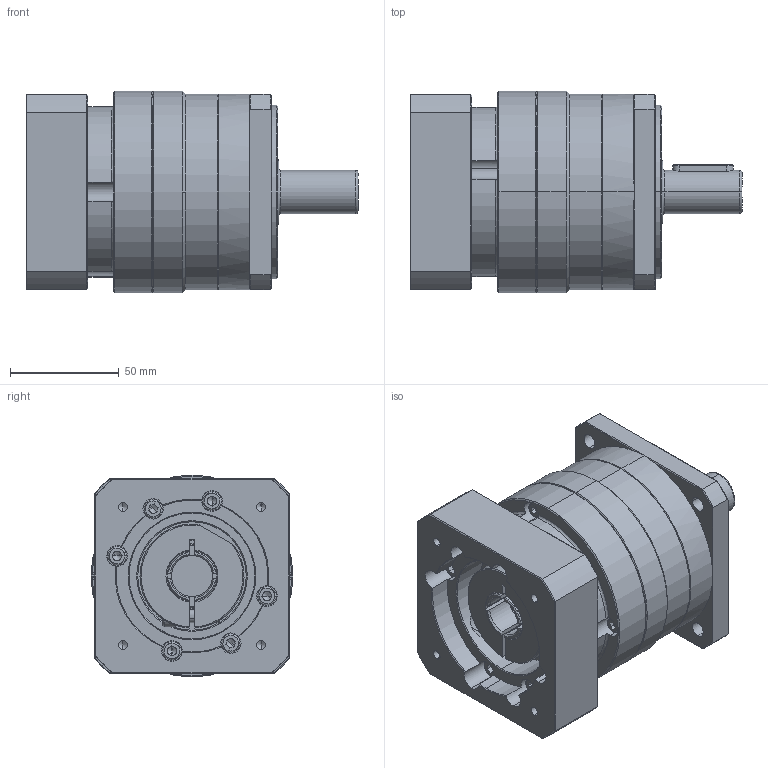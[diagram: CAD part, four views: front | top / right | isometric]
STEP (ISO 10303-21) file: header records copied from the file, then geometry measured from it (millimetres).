
FILE_DESCRIPTION (( 'STEP AP214' ), '1' );
FILE_NAME ('FB090-L1-S2-P2 19-70-90-M5.STEP', '2023-09-20T05:16:43', ( '微软用户' ), ( '微软中国' ), 'SwSTEP 2.0', 'SolidWorks 2018', '' );
FILE_SCHEMA (( 'AUTOMOTIVE_DESIGN' ));
Length unit declared in the file: millimetre
Products named in the file (13): hexagon socket head cap screws gb_GB_FASTENER_SCREWS_HSHCS M5X20-N; spring lock washers--normal type gb_GB_FASTENER_WASHER_SW 4; 標杶FB090 D19; hexagon socket head cap screws gb_GB_FASTENER_SCREWS_HSHCS M4X35-N; hexagon socket head cap screws gb_GB_FASTENER_SCREWS_HSHCS M6X20-N; FB090 一级齿圈加出轴20; hex socket set screws with flat point gb_GB_FASTENER_SCREWS_HSFP M12X12-N; FB090-L1-S2-P2 19-70-90-M5; 萇儂楊擘FB090 D70-M5-90F90H28.5; spring lock washers--normal type gb_GB_FASTENER_WASHER_SW 5; 珨撰淕极怮栠謫D19-3B; 笢潔楊擘俋倛芞 FB090; hexagon socket head cap screws gb_GB_FASTENER_SCREWS_HSHCS M4X25-N
Assembly tree (44 placements, depth 2):
  FB090-L1-S2-P2 19-70-90-M5
    FB090 一级齿圈加出轴20
    萇儂楊擘FB090 D70-M5-90F90H28.5
    笢潔楊擘俋倛芞 FB090
    珨撰淕极怮栠謫D19-3B
    標杶FB090 D19
    hexagon socket head cap screws gb_GB_FASTENER_SCREWS_HSHCS M5X20-N  x6
    spring lock washers--normal type gb_GB_FASTENER_WASHER_SW 5  x6
    spring lock washers--normal type gb_GB_FASTENER_WASHER_SW 4  x5
    hexagon socket head cap screws gb_GB_FASTENER_SCREWS_HSHCS M4X35-N  x12
    hexagon socket head cap screws gb_GB_FASTENER_SCREWS_HSHCS M4X25-N  x8
    hex socket set screws with flat point gb_GB_FASTENER_SCREWS_HSFP M12X12-N
    hexagon socket head cap screws gb_GB_FASTENER_SCREWS_HSHCS M6X20-N
Bounding box: 153 x 93 x 93 mm (x, y, z)
Volume: 712390.1 mm3; surface area: 127792.4 mm2
Topology: 44 solids, 44 shells, 1281 faces, 3057 edges, 1879 vertices
Faces by surface type: plane 595, cylinder 395, cone 226, bspline 65
Entity records: 26498 total; most frequent: CARTESIAN_POINT 4106, DIRECTION 3364, ORIENTED_EDGE 3014, EDGE_CURVE 1507, AXIS2_PLACEMENT_3D 1354, VERTEX_POINT 962, CIRCLE 710, EDGE_LOOP 701
